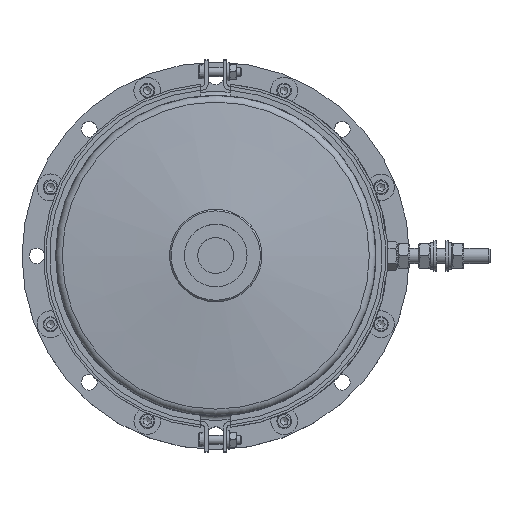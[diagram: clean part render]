
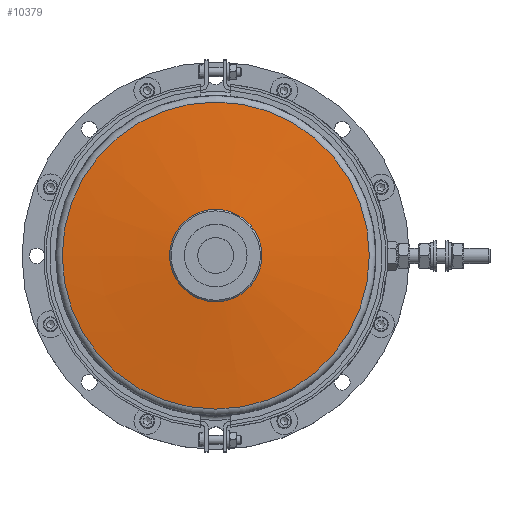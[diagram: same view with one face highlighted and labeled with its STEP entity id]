
A CAD part, top view. The second image highlights one B-rep face of the part: STEP entity #10379.
In plain terms, the highlighted conical face has half-angle 84 degrees and reference radius 67.011 mm.
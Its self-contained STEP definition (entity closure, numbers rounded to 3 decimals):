
#404=CONICAL_SURFACE($,#11437,67.011,84.);
#1678=FACE_BOUND($,#3908,.T.);
#3082=FACE_OUTER_BOUND($,#3907,.T.);
#3907=EDGE_LOOP($,(#9091));
#3908=EDGE_LOOP($,(#9092));
#4532=CIRCLE($,#11436,103.023);
#4533=CIRCLE($,#11438,31.);
#5398=VERTEX_POINT($,#17582);
#5399=VERTEX_POINT($,#17585);
#6676=EDGE_CURVE($,#5398,#5398,#4532,.T.);
#6677=EDGE_CURVE($,#5399,#5399,#4533,.T.);
#9091=ORIENTED_EDGE($,*,*,#6677,.F.);
#9092=ORIENTED_EDGE($,*,*,#6676,.T.);
#10379=ADVANCED_FACE($,(#3082,#1678),#404,.T.);
#11436=AXIS2_PLACEMENT_3D($,#17583,#13921,#13922);
#11437=AXIS2_PLACEMENT_3D($,#17584,#13923,#13924);
#11438=AXIS2_PLACEMENT_3D($,#17586,#13925,#13926);
#13921=DIRECTION('center_axis',(0.,0.,1.));
#13922=DIRECTION('ref_axis',(-1.,0.,0.));
#13923=DIRECTION('center_axis',(0.,0.,-1.));
#13924=DIRECTION('ref_axis',(-1.,0.,0.));
#13925=DIRECTION('center_axis',(0.,0.,1.));
#13926=DIRECTION('ref_axis',(-1.,0.,0.));
#17582=CARTESIAN_POINT('',(-103.023,0.,114.43));
#17583=CARTESIAN_POINT('Origin',(0.,0.,114.43));
#17584=CARTESIAN_POINT('Origin',(0.,0.,118.215));
#17585=CARTESIAN_POINT('',(-31.,0.,122.));
#17586=CARTESIAN_POINT('Origin',(0.,0.,122.));
